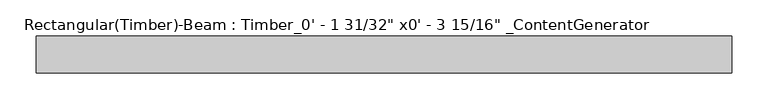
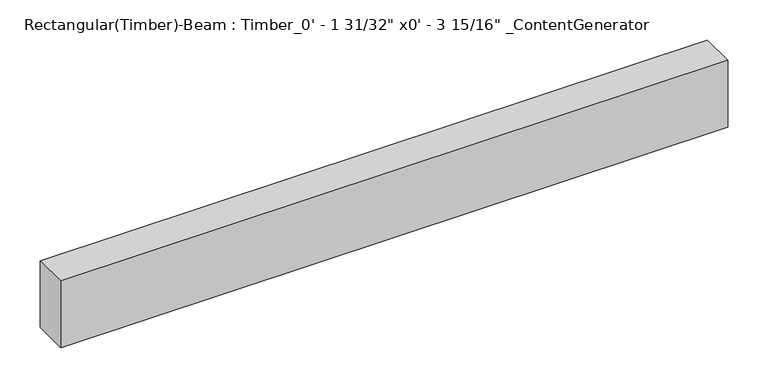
"""IFC4 building model written with IfcOpenShell, lengths in millimetres: beam geometry."""

from ifc_helpers import new_model, si_unit, frame, origin, place, context, project, spatial, polyline, outline, extrude, source, transform, mapped, element, save


def beam_98278f2a(model_context):
    return source(origin(), model_context, "Body", "SweptSolid", [
        extrude(outline(polyline([(480.05, 25.4), (480.05, -25.4), (-480.05, -25.4), (-480.05, 25.4), (480.05, 25.4)])), frame((0.0, 0.0, -50.8), z_axis=(0.0, 0.0, 1.0), x_axis=(1.0, 0.0, 0.0)), (0.0, 0.0, 1.0), 101.6),
    ])


if __name__ == "__main__":
    model = new_model("IFC4")
    model_context = context("Model", 3, world=origin())
    ifc_project = project(units=[si_unit("LENGTHUNIT", "METRE", prefix="MILLI")], contexts=[model_context])
    site = spatial("IfcSite", under=ifc_project)
    building = spatial("IfcBuilding", under=site)
    placement = place(None, origin())
    beam_shape = beam_98278f2a(model_context)
    element("IfcBeam", 1, ObjectType="Rectangular(Timber)-Beam : Timber_0' - 1 31/32\" x0' - 3 15/16\" _ContentGenerator", at=placement, inside=building, context=model_context, shape_type="MappedRepresentation", body=[
        mapped(beam_shape, transform((0.0, 0.0, 0.0), x_axis=(1.0, 0.0, 0.0), y_axis=(0.0, 1.0, 0.0), z_axis=(0.0, 0.0, 1.0))),
    ])
    save(model, "model.ifc")
